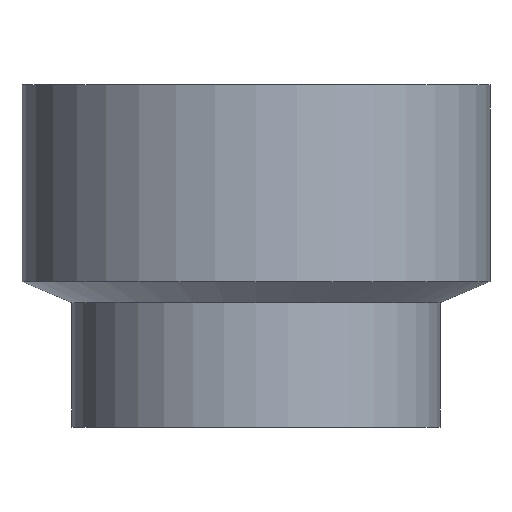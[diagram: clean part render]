
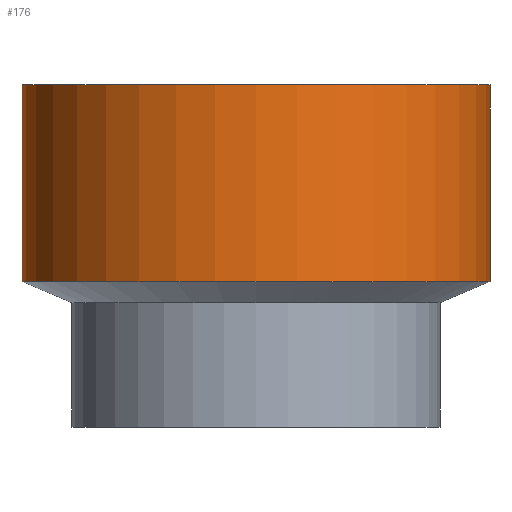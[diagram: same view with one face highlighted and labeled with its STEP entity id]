
A CAD part, front view. The second image highlights one B-rep face of the part: STEP entity #176.
In plain terms, the highlighted cylindrical face has radius 41.35 mm (diameter 82.7 mm), a partial arc.
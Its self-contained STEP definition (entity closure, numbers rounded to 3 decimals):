
#1 = EDGE_LOOP ( 'NONE', ( #288, #343, #146, #163 ) ) ;
#5 = CARTESIAN_POINT ( 'NONE',  ( 41.35, 0., 25.72 ) ) ;
#9 = CIRCLE ( 'NONE', #384, 41.35 ) ;
#28 = CARTESIAN_POINT ( 'NONE',  ( -41.35, 0., 25.72 ) ) ;
#76 = VERTEX_POINT ( 'NONE', #401 ) ;
#87 = EDGE_CURVE ( 'NONE', #212, #76, #173, .T. ) ;
#93 = AXIS2_PLACEMENT_3D ( 'NONE', #475, #111, #155 ) ;
#110 = CYLINDRICAL_SURFACE ( 'NONE', #93, 41.35 ) ;
#111 = DIRECTION ( 'NONE',  ( 0., 0., -1. ) ) ;
#122 = DIRECTION ( 'NONE',  ( 0., 0., -1. ) ) ;
#146 = ORIENTED_EDGE ( 'NONE', *, *, #337, .T. ) ;
#155 = DIRECTION ( 'NONE',  ( -1., 0., 0. ) ) ;
#156 = VERTEX_POINT ( 'NONE', #28 ) ;
#163 = ORIENTED_EDGE ( 'NONE', *, *, #319, .F. ) ;
#173 = CIRCLE ( 'NONE', #462, 41.35 ) ;
#176 = ADVANCED_FACE ( 'NONE', ( #346 ), #110, .T. ) ;
#179 = CARTESIAN_POINT ( 'NONE',  ( -41.35, 0., 60.46 ) ) ;
#203 = VECTOR ( 'NONE', #122, 1000. ) ;
#212 = VERTEX_POINT ( 'NONE', #404 ) ;
#221 = EDGE_CURVE ( 'NONE', #76, #372, #315, .T. ) ;
#233 = DIRECTION ( 'NONE',  ( 0., 0., 1. ) ) ;
#249 = DIRECTION ( 'NONE',  ( -1., 0., 0. ) ) ;
#288 = ORIENTED_EDGE ( 'NONE', *, *, #221, .F. ) ;
#315 = LINE ( 'NONE', #323, #203 ) ;
#319 = EDGE_CURVE ( 'NONE', #372, #156, #9, .T. ) ;
#323 = CARTESIAN_POINT ( 'NONE',  ( 41.35, 0., 60.46 ) ) ;
#337 = EDGE_CURVE ( 'NONE', #212, #156, #424, .T. ) ;
#343 = ORIENTED_EDGE ( 'NONE', *, *, #87, .F. ) ;
#346 = FACE_OUTER_BOUND ( 'NONE', #1, .T. ) ;
#371 = DIRECTION ( 'NONE',  ( 0., 0., -1. ) ) ;
#372 = VERTEX_POINT ( 'NONE', #5 ) ;
#375 = DIRECTION ( 'NONE',  ( 0., 0., -1. ) ) ;
#384 = AXIS2_PLACEMENT_3D ( 'NONE', #420, #375, #249 ) ;
#401 = CARTESIAN_POINT ( 'NONE',  ( 41.35, 0., 60.46 ) ) ;
#403 = VECTOR ( 'NONE', #371, 1000. ) ;
#404 = CARTESIAN_POINT ( 'NONE',  ( -41.35, 0., 60.46 ) ) ;
#420 = CARTESIAN_POINT ( 'NONE',  ( 0., 0., 25.72 ) ) ;
#424 = LINE ( 'NONE', #179, #403 ) ;
#462 = AXIS2_PLACEMENT_3D ( 'NONE', #466, #233, #514 ) ;
#466 = CARTESIAN_POINT ( 'NONE',  ( 0., 0., 60.46 ) ) ;
#475 = CARTESIAN_POINT ( 'NONE',  ( 0., 0., 60.46 ) ) ;
#514 = DIRECTION ( 'NONE',  ( 1., 0., 0. ) ) ;
